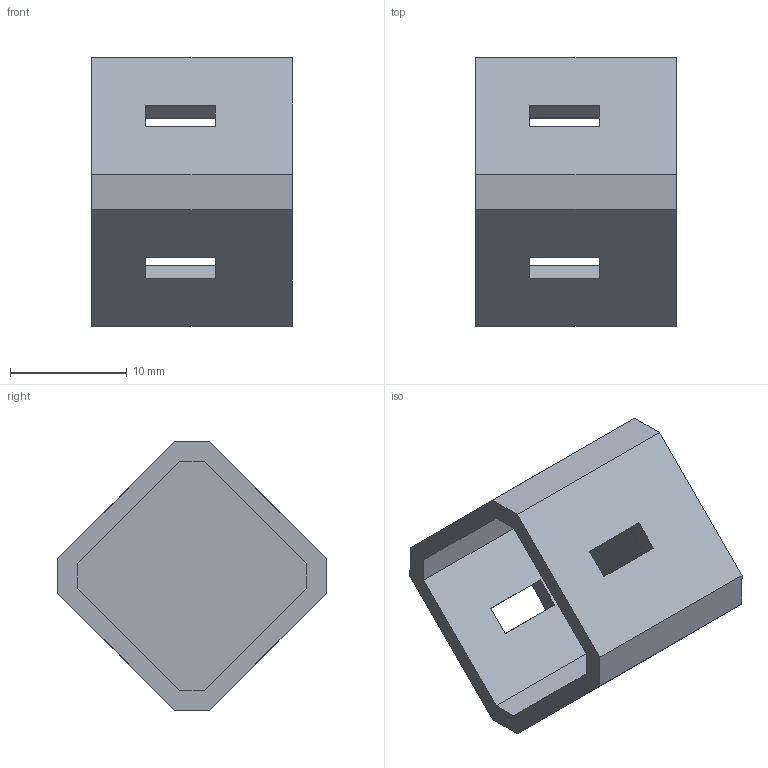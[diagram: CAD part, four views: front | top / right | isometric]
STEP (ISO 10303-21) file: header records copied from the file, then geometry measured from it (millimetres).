
FILE_DESCRIPTION (( 'STEP AP214' ), '1' );
FILE_NAME ('Female Connector.STEP', '2025-10-25T21:58:21', ( '' ), ( '' ), 'SwSTEP 2.0', 'SolidWorks 2025', '' );
FILE_SCHEMA (( 'AUTOMOTIVE_DESIGN' ));
Length unit declared in the file: millimetre
Products named in the file (1): Female Connector
Bounding box: 17.2 x 23 x 23 mm (x, y, z)
Volume: 2032.8 mm3; surface area: 2701.8 mm2
Topology: 1 solids, 1 shells, 35 faces, 96 edges, 64 vertices
Faces by surface type: plane 35
Entity records: 1129 total; most frequent: CARTESIAN_POINT 196, ORIENTED_EDGE 192, DIRECTION 168, LINE 96, EDGE_CURVE 96, VECTOR 96, VERTEX_POINT 64, EDGE_LOOP 44
